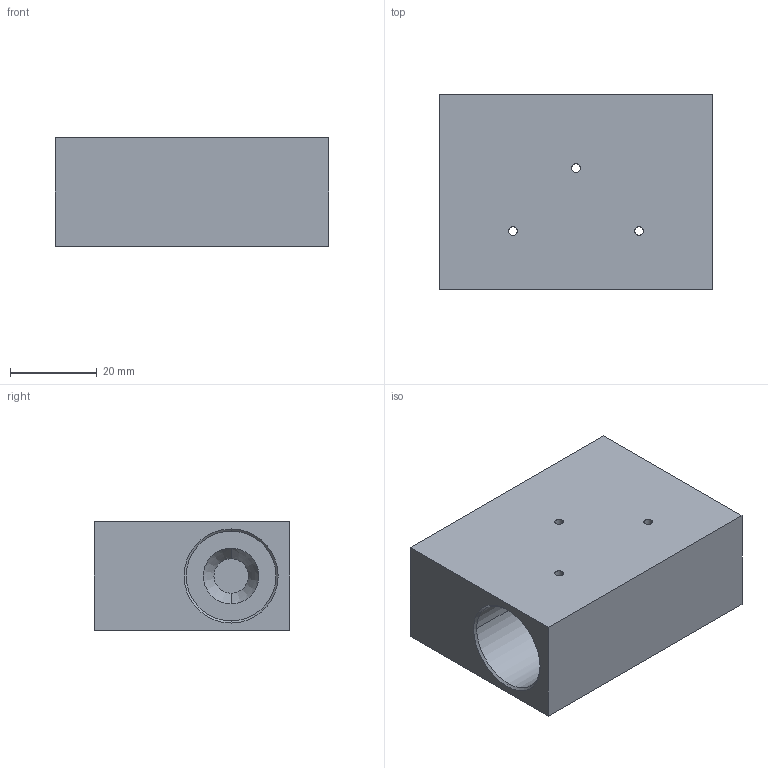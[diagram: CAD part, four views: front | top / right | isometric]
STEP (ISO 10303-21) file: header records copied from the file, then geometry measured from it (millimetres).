
FILE_DESCRIPTION (( 'STEP AP203' ), '1' );
FILE_NAME ('FT20TS09.STEP', '2026-06-26T01:24:22', ( 'USER' ), ( '' ), 'SwSTEP 2.0', 'SolidWorks 2023', '' );
FILE_SCHEMA (( 'CONFIG_CONTROL_DESIGN' ));
Length unit declared in the file: millimetre
Products named in the file (1): FT20TS09
Bounding box: 63 x 45 x 25 mm (x, y, z)
Volume: 50103.2 mm3; surface area: 15273.3 mm2
Topology: 1 solids, 1 shells, 48 faces, 118 edges, 76 vertices
Faces by surface type: cylinder 24, cone 12, plane 12
Entity records: 1695 total; most frequent: CARTESIAN_POINT 439, DIRECTION 252, ORIENTED_EDGE 236, EDGE_CURVE 118, AXIS2_PLACEMENT_3D 101, VERTEX_POINT 76, EDGE_LOOP 64, CIRCLE 52
